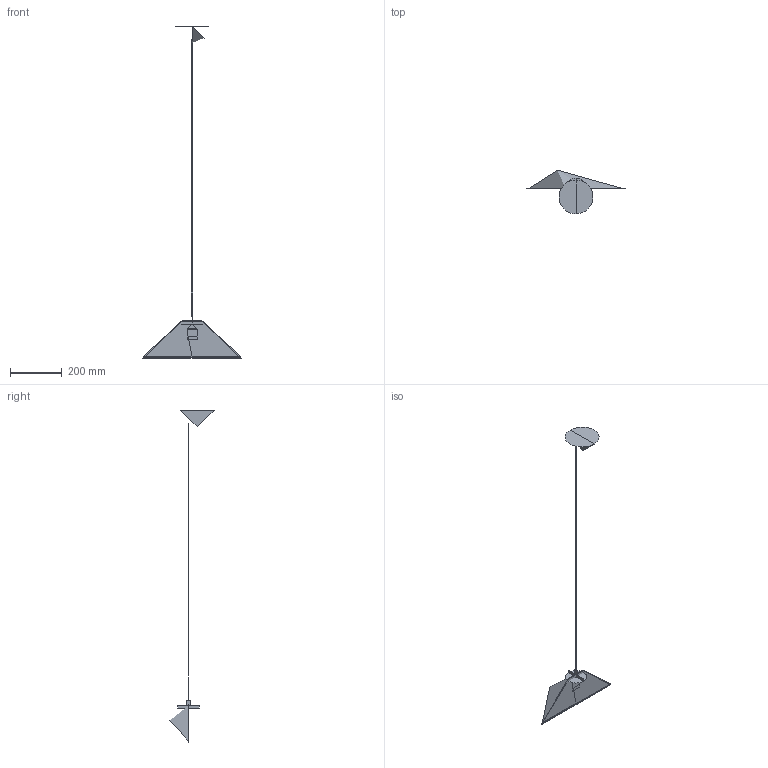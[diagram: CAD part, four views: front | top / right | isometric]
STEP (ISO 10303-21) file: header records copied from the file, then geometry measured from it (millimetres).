
FILE_DESCRIPTION(/* description */ (''),/* implementation_level */ '2;1');
FILE_NAME(/* name */ 'aggregato d38',/* time_stamp */ '2016-04-29T16:42:02+02:00',/* author */ (''),/* organization */ (''),/* preprocessor_version */ 'ST-DEVELOPER v15',/* originating_system */ '',/* authorisation */ '');
FILE_SCHEMA (('AUTOMOTIVE_DESIGN'));
Length unit declared in the file: millimetre
Products named in the file (2): Document; Blocco 01 01
Assembly tree (1 placements, depth 2):
  Document
    Blocco 01 01
Bounding box: 382 x 171.54 x 1286.84 mm (x, y, z)
Surface area: 405927.7 mm2 (no closed solid volume)
Topology: 0 solids, 33 shells, 41 faces, 150 edges, 130 vertices
Faces by surface type: bspline 30, plane 11
Entity records: 2238 total; most frequent: CARTESIAN_POINT 1465, ORIENTED_EDGE 156, EDGE_CURVE 140, VERTEX_POINT 125, EDGE_LOOP 44, ADVANCED_FACE 41, FACE_OUTER_BOUND 41, PRESENTATION_LAYER_ASSIGNMENT 39
